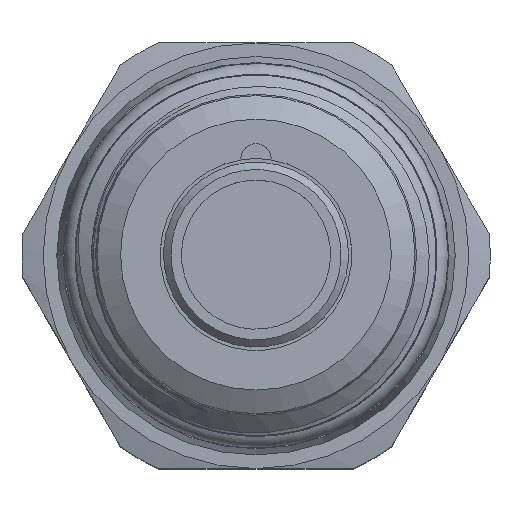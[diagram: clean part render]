
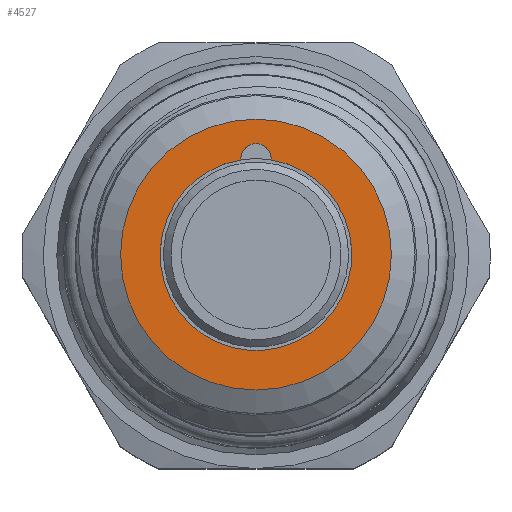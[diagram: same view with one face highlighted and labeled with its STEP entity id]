
A CAD part, top view. The second image highlights one B-rep face of the part: STEP entity #4527.
In plain terms, the highlighted planar face has unit normal (0, 0, 1).
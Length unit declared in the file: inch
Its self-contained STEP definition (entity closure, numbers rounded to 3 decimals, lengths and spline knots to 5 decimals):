
#31=FACE_BOUND('',#1268,.T.);
#794=PLANE('',#4919);
#1023=FACE_OUTER_BOUND('',#1267,.T.);
#1267=EDGE_LOOP('',(#4216,#4217));
#1268=EDGE_LOOP('',(#4218,#4219));
#1396=CIRCLE('',#4809,0.045);
#1398=CIRCLE('',#4813,0.28143);
#1430=CIRCLE('',#4870,0.39772);
#1431=CIRCLE('',#4871,0.39772);
#2102=VERTEX_POINT('',#16735);
#2103=VERTEX_POINT('',#16737);
#2148=VERTEX_POINT('',#16949);
#2149=VERTEX_POINT('',#16951);
#2748=EDGE_CURVE('',#2103,#2102,#1396,.T.);
#2752=EDGE_CURVE('',#2102,#2103,#1398,.T.);
#2819=EDGE_CURVE('',#2149,#2148,#1430,.T.);
#2820=EDGE_CURVE('',#2148,#2149,#1431,.T.);
#4216=ORIENTED_EDGE('',*,*,#2819,.T.);
#4217=ORIENTED_EDGE('',*,*,#2820,.T.);
#4218=ORIENTED_EDGE('',*,*,#2748,.T.);
#4219=ORIENTED_EDGE('',*,*,#2752,.T.);
#4527=ADVANCED_FACE('',(#1023,#31),#794,.T.);
#4809=AXIS2_PLACEMENT_3D('',#16738,#5536,#5537);
#4813=AXIS2_PLACEMENT_3D('',#16767,#5545,#5546);
#4870=AXIS2_PLACEMENT_3D('',#16952,#5670,#5671);
#4871=AXIS2_PLACEMENT_3D('',#16953,#5672,#5673);
#4919=AXIS2_PLACEMENT_3D('',#17033,#5780,#5781);
#5536=DIRECTION('center_axis',(0.,0.,-1.));
#5537=DIRECTION('ref_axis',(-1.,0.,0.));
#5545=DIRECTION('center_axis',(0.,0.,-1.));
#5546=DIRECTION('ref_axis',(1.,0.,0.));
#5670=DIRECTION('center_axis',(0.,0.,1.));
#5671=DIRECTION('ref_axis',(-1.,0.,0.));
#5672=DIRECTION('center_axis',(0.,0.,1.));
#5673=DIRECTION('ref_axis',(-1.,0.,0.));
#5780=DIRECTION('center_axis',(0.,0.,1.));
#5781=DIRECTION('ref_axis',(1.,0.,0.));
#16735=CARTESIAN_POINT('',(0.04489,0.27782,2.774));
#16737=CARTESIAN_POINT('',(-0.04489,0.27782,2.774));
#16738=CARTESIAN_POINT('Origin',(0.,0.281,2.774));
#16767=CARTESIAN_POINT('Origin',(0.,0.,2.774));
#16949=CARTESIAN_POINT('',(0.39772,0.,2.774));
#16951=CARTESIAN_POINT('',(-0.39772,0.,2.774));
#16952=CARTESIAN_POINT('Origin',(0.,0.,2.774));
#16953=CARTESIAN_POINT('Origin',(0.,0.,2.774));
#17033=CARTESIAN_POINT('Origin',(0.,0.,
2.774));
